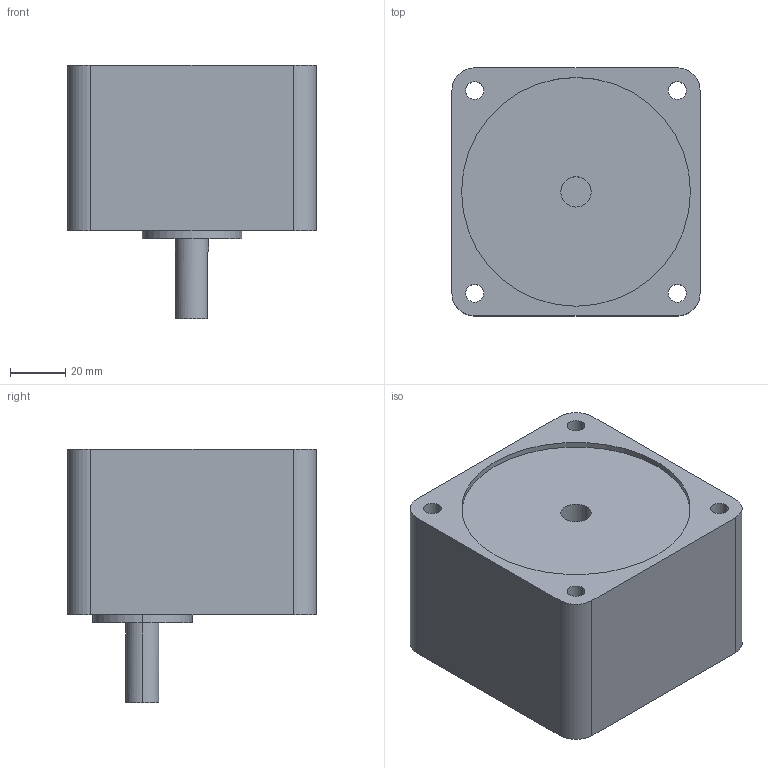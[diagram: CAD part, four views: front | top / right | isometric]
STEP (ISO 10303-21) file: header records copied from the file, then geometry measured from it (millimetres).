
FILE_DESCRIPTION (( 'STEP AP203' ), '1' );
FILE_NAME ('A1896B.step', '2024-04-25T09:37:05', ( '' ), ( '' ), 'SwSTEP 2.0', 'SolidWorks 2023', '' );
FILE_SCHEMA (( 'CONFIG_CONTROL_DESIGN' ));
Length unit declared in the file: millimetre
Products named in the file (1): A1896B
Bounding box: 90 x 90 x 92 mm (x, y, z)
Volume: 463461.9 mm3; surface area: 44631.4 mm2
Topology: 1 solids, 1 shells, 37 faces, 90 edges, 60 vertices
Faces by surface type: cylinder 23, plane 14
Entity records: 1228 total; most frequent: CARTESIAN_POINT 218, DIRECTION 209, ORIENTED_EDGE 180, EDGE_CURVE 90, AXIS2_PLACEMENT_3D 83, VERTEX_POINT 60, EDGE_LOOP 50, CIRCLE 45
